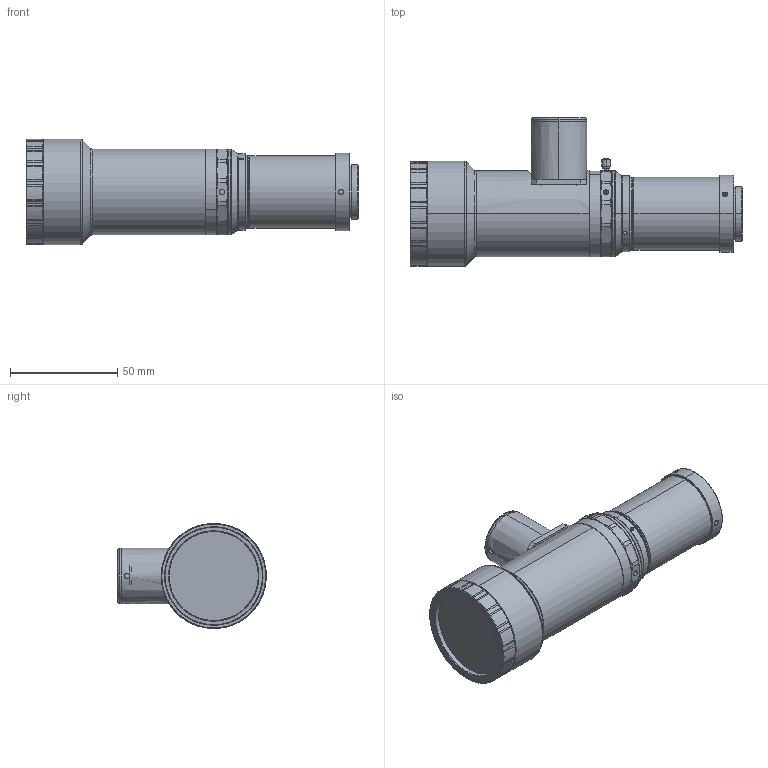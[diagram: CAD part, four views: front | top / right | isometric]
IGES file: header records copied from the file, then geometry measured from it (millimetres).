
Start section: SolidWorks IGES file using analytic representation for surfaces
Global section: file name: C:\Users\gc\Desktop\未完成工作堆放区\DTCA小倍率\DTCA121-14.8\发客户3D\DTCA121-14.8CL.IGS,15HSolidWorks; native system: 2017; preprocessor: SolidWorks 2017; author: gc; date: 240109.152726; units: millimetre
Bounding box: 154.74 x 69.3 x 49 mm (x, y, z)
Surface area: 45557.4 mm2 (no closed solid volume)
Topology: 0 solids, 0 shells, 627 faces, 10532 edges, 10514 vertices
Faces by surface type: revolution 478, bspline 149
